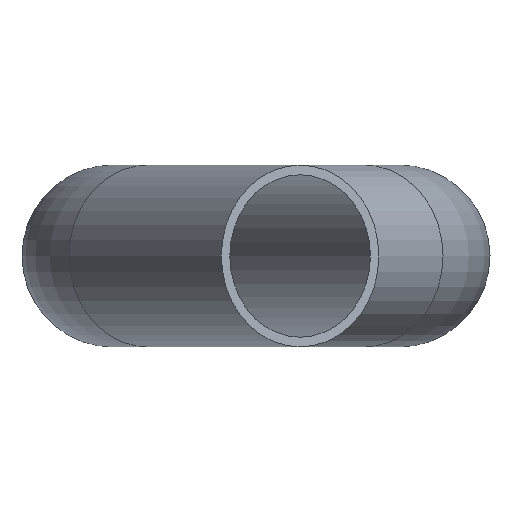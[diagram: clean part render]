
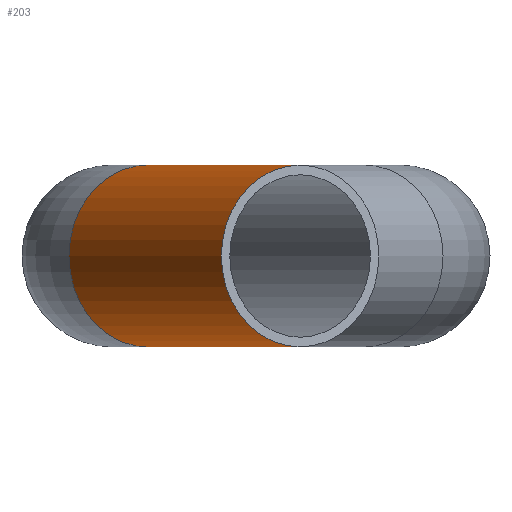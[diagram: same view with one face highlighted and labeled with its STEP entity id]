
A CAD part, left-side view. The second image highlights one B-rep face of the part: STEP entity #203.
In plain terms, the highlighted cylindrical face has radius 14 mm (diameter 28 mm), a full revolution.
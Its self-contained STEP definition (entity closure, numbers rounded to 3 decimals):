
#176=CARTESIAN_POINT('',(-177.0,38.682,0.0));
#177=DIRECTION('',(-0.866,-0.5,0.0));
#178=DIRECTION('',(0.5,-0.866,0.0));
#179=AXIS2_PLACEMENT_3D('',#176,#177,#178);
#180=CYLINDRICAL_SURFACE('',#179,14.);
#181=CARTESIAN_POINT('',(-224.622,27.354,0.));
#182=VERTEX_POINT('',#181);
#183=CARTESIAN_POINT('',(-217.622,15.229,0.0));
#184=DIRECTION('',(0.866,0.5,0.0));
#185=DIRECTION('',(0.5,-0.866,0.0));
#186=AXIS2_PLACEMENT_3D('',#183,#184,#185);
#187=CIRCLE('',#186,14.);
#188=EDGE_CURVE('',#182,#182,#187,.T.);
#189=ORIENTED_EDGE('',*,*,#188,.T.);
#190=EDGE_LOOP('',(#189));
#191=FACE_OUTER_BOUND('',#190,.T.);
#192=CARTESIAN_POINT('',(-184.0,50.807,0.));
#193=VERTEX_POINT('',#192);
#194=CARTESIAN_POINT('',(-177.0,38.682,0.0));
#195=DIRECTION('',(0.866,0.5,0.0));
#196=DIRECTION('',(0.5,-0.866,0.0));
#197=AXIS2_PLACEMENT_3D('',#194,#195,#196);
#198=CIRCLE('',#197,14.);
#199=EDGE_CURVE('',#193,#193,#198,.T.);
#200=ORIENTED_EDGE('',*,*,#199,.F.);
#201=EDGE_LOOP('',(#200));
#202=FACE_BOUND('',#201,.T.);
#203=ADVANCED_FACE('',(#191,#202),#180,.T.);
